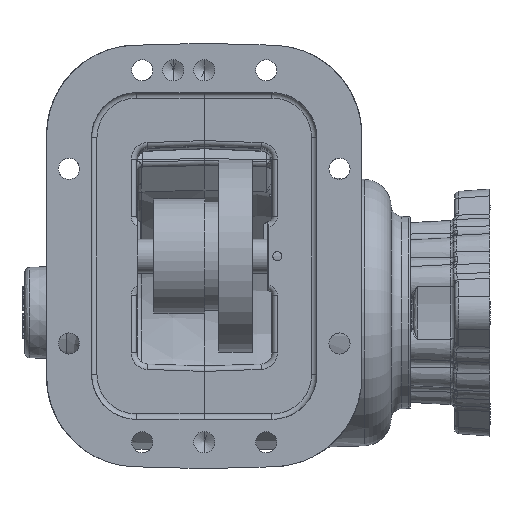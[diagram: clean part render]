
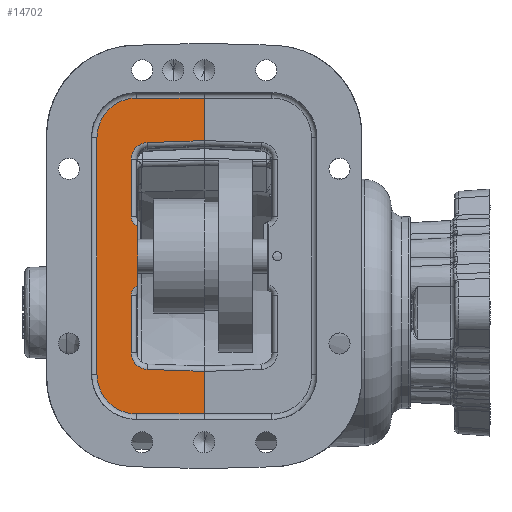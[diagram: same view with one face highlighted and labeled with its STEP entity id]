
A CAD part, front view. The second image highlights one B-rep face of the part: STEP entity #14702.
In plain terms, the highlighted planar face has unit normal (0, -1, 0).
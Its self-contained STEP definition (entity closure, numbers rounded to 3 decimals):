
#2827 = FACE_OUTER_BOUND ( 'NONE', #84426, .T. ) ;
#14702 = ADVANCED_FACE ( 'NONE', ( #2827 ), #29512, .F. ) ;
#19202 = AXIS2_PLACEMENT_3D ( 'NONE', #29499, #29518, #29521 ) ;
#23954 = CARTESIAN_POINT ( 'NONE',  ( -10.39, -133.047, -95.578 ) ) ;
#23964 = DIRECTION ( 'NONE',  ( 0., 0., 1. ) ) ;
#23984 = CARTESIAN_POINT ( 'NONE',  ( -10.39, -133.047, -95.578 ) ) ;
#23994 = DIRECTION ( 'NONE',  ( 0., 0., 1. ) ) ;
#24258 = DIRECTION ( 'NONE',  ( 0., 0., -1. ) ) ;
#24312 = CARTESIAN_POINT ( 'NONE',  ( -47.728, -133.047, -95.578 ) ) ;
#24317 = DIRECTION ( 'NONE',  ( 0., 0., -1. ) ) ;
#24329 = CARTESIAN_POINT ( 'NONE',  ( -51.538, -133.047, 44.059 ) ) ;
#24335 = CARTESIAN_POINT ( 'NONE',  ( -45.442, -133.047, 44.059 ) ) ;
#24337 = DIRECTION ( 'NONE',  ( 0., -1., 0. ) ) ;
#24339 = DIRECTION ( 'NONE',  ( 0., 0., -1. ) ) ;
#24348 = DIRECTION ( 'NONE',  ( -0.999, 0., -0.035 ) ) ;
#24351 = CARTESIAN_POINT ( 'NONE',  ( -10.39, -133.047, 110.924 ) ) ;
#24353 = CARTESIAN_POINT ( 'NONE',  ( -42.468, -133.047, 85.803 ) ) ;
#24355 = CARTESIAN_POINT ( 'NONE',  ( -42.14, -133.047, 76.41 ) ) ;
#24357 = DIRECTION ( 'NONE',  ( 0., -1., 0. ) ) ;
#24359 = DIRECTION ( 'NONE',  ( 0., 0., -1. ) ) ;
#24364 = DIRECTION ( 'NONE',  ( 1., 0., 0. ) ) ;
#24377 = CARTESIAN_POINT ( 'NONE',  ( -70.842, -133.047, 88.572 ) ) ;
#24379 = CARTESIAN_POINT ( 'NONE',  ( -48.49, -133.047, 88.572 ) ) ;
#24381 = DIRECTION ( 'NONE',  ( 0., 1., 0. ) ) ;
#24383 = DIRECTION ( 'NONE',  ( 0., 0., -1. ) ) ;
#24386 = DIRECTION ( 'NONE',  ( 0., 0., 1. ) ) ;
#24389 = DIRECTION ( 'NONE',  ( -1., 0., 0. ) ) ;
#24392 = CARTESIAN_POINT ( 'NONE',  ( -10.497, -133.047, -43.125 ) ) ;
#24394 = CARTESIAN_POINT ( 'NONE',  ( -48.49, -133.047, -67.13 ) ) ;
#24396 = CARTESIAN_POINT ( 'NONE',  ( -48.49, -133.047, -44.778 ) ) ;
#24398 = DIRECTION ( 'NONE',  ( 0., 1., 0. ) ) ;
#24400 = DIRECTION ( 'NONE',  ( 0., 0., -1. ) ) ;
#24412 = DIRECTION ( 'NONE',  ( 0.999, 0., -0.035 ) ) ;
#24420 = CARTESIAN_POINT ( 'NONE',  ( -42.14, -133.047, -32.617 ) ) ;
#24422 = DIRECTION ( 'NONE',  ( 0., -1., 0. ) ) ;
#24424 = DIRECTION ( 'NONE',  ( 0., 0., -1. ) ) ;
#24426 = CARTESIAN_POINT ( 'NONE',  ( -51.538, -133.047, -32.617 ) ) ;
#24439 = DIRECTION ( 'NONE',  ( 0., 0., -1. ) ) ;
#24449 = CARTESIAN_POINT ( 'NONE',  ( -45.442, -133.047, -0.265 ) ) ;
#24451 = DIRECTION ( 'NONE',  ( 0., -1., 0. ) ) ;
#24453 = DIRECTION ( 'NONE',  ( 0., 0., -1. ) ) ;
#29499 = CARTESIAN_POINT ( 'NONE',  ( -99.29, -133.047, -95.578 ) ) ;
#29512 = PLANE ( 'NONE',  #19202 ) ;
#29518 = DIRECTION ( 'NONE',  ( 0., 1., 0. ) ) ;
#29521 = DIRECTION ( 'NONE',  ( 0., 0., -1. ) ) ;
#42701 = LINE ( 'NONE', #23954, #42710 ) ;
#42710 = VECTOR ( 'NONE', #23964, 1000. ) ;
#42722 = LINE ( 'NONE', #23984, #42729 ) ;
#42729 = VECTOR ( 'NONE', #23994, 1000. ) ;
#42751 = LINE ( 'NONE', #24312, #42758 ) ;
#42753 = CIRCLE ( 'NONE', #80826, 9.398 ) ;
#42755 = CIRCLE ( 'NONE', #80823, 6.096 ) ;
#42758 = VECTOR ( 'NONE', #24258, 1000. ) ;
#42759 = LINE ( 'NONE', #24329, #42763 ) ;
#42761 = LINE ( 'NONE', #24353, #42769 ) ;
#42763 = VECTOR ( 'NONE', #24317, 1000. ) ;
#42765 = LINE ( 'NONE', #24351, #42773 ) ;
#42767 = CIRCLE ( 'NONE', #80828, 22.352 ) ;
#42769 = VECTOR ( 'NONE', #24348, 1000. ) ;
#42773 = VECTOR ( 'NONE', #24364, 1000. ) ;
#42775 = LINE ( 'NONE', #24394, #42785 ) ;
#42777 = CIRCLE ( 'NONE', #80829, 22.352 ) ;
#42779 = LINE ( 'NONE', #24377, #42782 ) ;
#42782 = VECTOR ( 'NONE', #24386, 1000. ) ;
#42783 = CIRCLE ( 'NONE', #80835, 6.096 ) ;
#42785 = VECTOR ( 'NONE', #24389, 1000. ) ;
#42787 = CIRCLE ( 'NONE', #80832, 9.398 ) ;
#42789 = LINE ( 'NONE', #24392, #42791 ) ;
#42791 = VECTOR ( 'NONE', #24412, 1000. ) ;
#42798 = LINE ( 'NONE', #24426, #42800 ) ;
#42800 = VECTOR ( 'NONE', #24439, 1000. ) ;
#45433 = CARTESIAN_POINT ( 'NONE',  ( -10.39, -133.047, -43.129 ) ) ;
#45436 = CARTESIAN_POINT ( 'NONE',  ( -10.39, -133.047, -67.13 ) ) ;
#45450 = CARTESIAN_POINT ( 'NONE',  ( -10.39, -133.047, 110.924 ) ) ;
#45453 = CARTESIAN_POINT ( 'NONE',  ( -10.39, -133.047, 86.923 ) ) ;
#45473 = CARTESIAN_POINT ( 'NONE',  ( -48.49, -133.047, 110.924 ) ) ;
#45478 = CARTESIAN_POINT ( 'NONE',  ( -42.468, -133.047, 85.803 ) ) ;
#45481 = CARTESIAN_POINT ( 'NONE',  ( -47.728, -133.047, 5.386 ) ) ;
#45498 = CARTESIAN_POINT ( 'NONE',  ( -47.728, -133.047, 38.408 ) ) ;
#45501 = CARTESIAN_POINT ( 'NONE',  ( -51.538, -133.047, 44.059 ) ) ;
#45504 = CARTESIAN_POINT ( 'NONE',  ( -51.538, -133.047, 76.41 ) ) ;
#45507 = CARTESIAN_POINT ( 'NONE',  ( -70.842, -133.047, -44.778 ) ) ;
#45510 = CARTESIAN_POINT ( 'NONE',  ( -48.49, -133.047, -67.13 ) ) ;
#45513 = CARTESIAN_POINT ( 'NONE',  ( -42.468, -133.047, -42.009 ) ) ;
#45516 = CARTESIAN_POINT ( 'NONE',  ( -70.842, -133.047, 88.572 ) ) ;
#45518 = CARTESIAN_POINT ( 'NONE',  ( -51.538, -133.047, -0.265 ) ) ;
#45527 = CARTESIAN_POINT ( 'NONE',  ( -51.538, -133.047, -32.617 ) ) ;
#57344 = VERTEX_POINT ( 'NONE', #45433 ) ;
#57345 = VERTEX_POINT ( 'NONE', #45436 ) ;
#57350 = VERTEX_POINT ( 'NONE', #45450 ) ;
#57351 = VERTEX_POINT ( 'NONE', #45453 ) ;
#57358 = VERTEX_POINT ( 'NONE', #45473 ) ;
#57360 = VERTEX_POINT ( 'NONE', #45478 ) ;
#57361 = VERTEX_POINT ( 'NONE', #45481 ) ;
#57367 = VERTEX_POINT ( 'NONE', #45498 ) ;
#57368 = VERTEX_POINT ( 'NONE', #45501 ) ;
#57369 = VERTEX_POINT ( 'NONE', #45504 ) ;
#57370 = VERTEX_POINT ( 'NONE', #45507 ) ;
#57371 = VERTEX_POINT ( 'NONE', #45510 ) ;
#57372 = VERTEX_POINT ( 'NONE', #45513 ) ;
#57373 = VERTEX_POINT ( 'NONE', #45516 ) ;
#57374 = VERTEX_POINT ( 'NONE', #45518 ) ;
#57377 = VERTEX_POINT ( 'NONE', #45527 ) ;
#69859 = EDGE_CURVE ( 'NONE', #57345, #57344, #42701, .T. ) ;
#69865 = EDGE_CURVE ( 'NONE', #57351, #57350, #42722, .T. ) ;
#69910 = EDGE_CURVE ( 'NONE', #57367, #57361, #42751, .T. ) ;
#69912 = EDGE_CURVE ( 'NONE', #57368, #57367, #42755, .T. ) ;
#69914 = EDGE_CURVE ( 'NONE', #57369, #57368, #42759, .T. ) ;
#69917 = EDGE_CURVE ( 'NONE', #57360, #57369, #42753, .T. ) ;
#69919 = EDGE_CURVE ( 'NONE', #57351, #57360, #42761, .T. ) ;
#69921 = EDGE_CURVE ( 'NONE', #57358, #57350, #42765, .T. ) ;
#69923 = EDGE_CURVE ( 'NONE', #57373, #57358, #42767, .T. ) ;
#69925 = EDGE_CURVE ( 'NONE', #57370, #57373, #42779, .T. ) ;
#69927 = EDGE_CURVE ( 'NONE', #57371, #57370, #42777, .T. ) ;
#69929 = EDGE_CURVE ( 'NONE', #57345, #57371, #42775, .T. ) ;
#69932 = EDGE_CURVE ( 'NONE', #57372, #57344, #42789, .T. ) ;
#69934 = EDGE_CURVE ( 'NONE', #57377, #57372, #42787, .T. ) ;
#69938 = EDGE_CURVE ( 'NONE', #57374, #57377, #42798, .T. ) ;
#69940 = EDGE_CURVE ( 'NONE', #57361, #57374, #42783, .T. ) ;
#72350 = ORIENTED_EDGE ( 'NONE', *, *, #69910, .F. ) ;
#72352 = ORIENTED_EDGE ( 'NONE', *, *, #69912, .F. ) ;
#72354 = ORIENTED_EDGE ( 'NONE', *, *, #69914, .F. ) ;
#72356 = ORIENTED_EDGE ( 'NONE', *, *, #69917, .F. ) ;
#72358 = ORIENTED_EDGE ( 'NONE', *, *, #69919, .F. ) ;
#72360 = ORIENTED_EDGE ( 'NONE', *, *, #69865, .T. ) ;
#72362 = ORIENTED_EDGE ( 'NONE', *, *, #69921, .F. ) ;
#72364 = ORIENTED_EDGE ( 'NONE', *, *, #69923, .F. ) ;
#72366 = ORIENTED_EDGE ( 'NONE', *, *, #69925, .F. ) ;
#72368 = ORIENTED_EDGE ( 'NONE', *, *, #69927, .F. ) ;
#72370 = ORIENTED_EDGE ( 'NONE', *, *, #69929, .F. ) ;
#72372 = ORIENTED_EDGE ( 'NONE', *, *, #69859, .T. ) ;
#72374 = ORIENTED_EDGE ( 'NONE', *, *, #69932, .F. ) ;
#72376 = ORIENTED_EDGE ( 'NONE', *, *, #69934, .F. ) ;
#72378 = ORIENTED_EDGE ( 'NONE', *, *, #69938, .F. ) ;
#72380 = ORIENTED_EDGE ( 'NONE', *, *, #69940, .F. ) ;
#80823 = AXIS2_PLACEMENT_3D ( 'NONE', #24335, #24337, #24339 ) ;
#80826 = AXIS2_PLACEMENT_3D ( 'NONE', #24355, #24357, #24359 ) ;
#80828 = AXIS2_PLACEMENT_3D ( 'NONE', #24379, #24381, #24383 ) ;
#80829 = AXIS2_PLACEMENT_3D ( 'NONE', #24396, #24398, #24400 ) ;
#80832 = AXIS2_PLACEMENT_3D ( 'NONE', #24420, #24422, #24424 ) ;
#80835 = AXIS2_PLACEMENT_3D ( 'NONE', #24449, #24451, #24453 ) ;
#84426 = EDGE_LOOP ( 'NONE', ( #72350, #72352, #72354, #72356, #72358, #72360, #72362, #72364, #72366, #72368, #72370, #72372, #72374, #72376, #72378, #72380 ) ) ;
